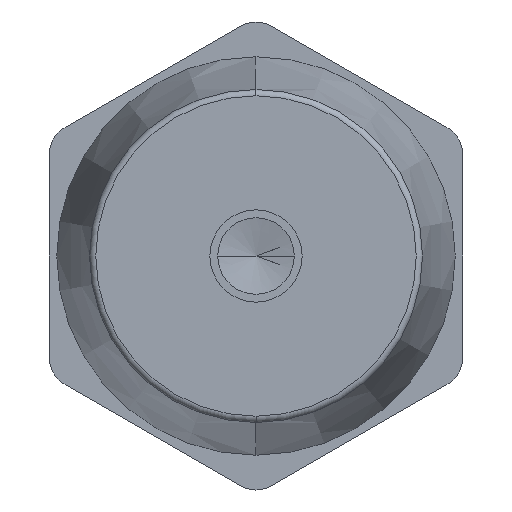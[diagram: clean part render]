
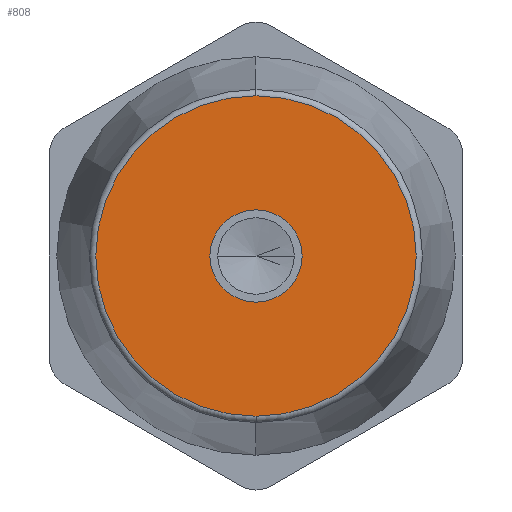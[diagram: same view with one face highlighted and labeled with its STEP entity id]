
A CAD part, front view. The second image highlights one B-rep face of the part: STEP entity #808.
In plain terms, the highlighted planar face has unit normal (0, -1, 0).
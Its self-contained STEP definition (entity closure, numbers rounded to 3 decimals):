
#56 = EDGE_CURVE ( 'NONE', #2029, #2514, #837, .T. ) ;
#58 = DIRECTION ( 'NONE',  ( -1., 0., 0. ) ) ;
#59 = ORIENTED_EDGE ( 'NONE', *, *, #1815, .T. ) ;
#324 = ORIENTED_EDGE ( 'NONE', *, *, #56, .T. ) ;
#439 = FACE_OUTER_BOUND ( 'NONE', #2225, .T. ) ;
#455 = CARTESIAN_POINT ( 'NONE',  ( 32.5, 0., -18.764 ) ) ;
#470 = CIRCLE ( 'NONE', #1387, 7.25 ) ;
#579 = DIRECTION ( 'NONE',  ( 0., -1., 0. ) ) ;
#808 = ADVANCED_FACE ( 'NONE', ( #2064, #439 ), #1881, .F. ) ;
#812 = CARTESIAN_POINT ( 'NONE',  ( 0., 0., 0. ) ) ;
#814 = DIRECTION ( 'NONE',  ( 0., 0., 1. ) ) ;
#837 = CIRCLE ( 'NONE', #1088, 25.161 ) ;
#871 = DIRECTION ( 'NONE',  ( 0., 1., 0. ) ) ;
#954 = DIRECTION ( 'NONE',  ( 0., 0., 1. ) ) ;
#983 = VERTEX_POINT ( 'NONE', #1860 ) ;
#1019 = CIRCLE ( 'NONE', #2252, 7.25 ) ;
#1033 = EDGE_CURVE ( 'NONE', #1543, #983, #470, .T. ) ;
#1088 = AXIS2_PLACEMENT_3D ( 'NONE', #812, #3076, #954 ) ;
#1220 = CARTESIAN_POINT ( 'NONE',  ( 0., 0., -25.161 ) ) ;
#1387 = AXIS2_PLACEMENT_3D ( 'NONE', #2363, #1427, #1642 ) ;
#1427 = DIRECTION ( 'NONE',  ( 0., 1., 0. ) ) ;
#1543 = VERTEX_POINT ( 'NONE', #2082 ) ;
#1607 = AXIS2_PLACEMENT_3D ( 'NONE', #2195, #579, #814 ) ;
#1612 = ORIENTED_EDGE ( 'NONE', *, *, #2564, .T. ) ;
#1642 = DIRECTION ( 'NONE',  ( -1., 0., 0. ) ) ;
#1652 = ORIENTED_EDGE ( 'NONE', *, *, #1033, .T. ) ;
#1815 = EDGE_CURVE ( 'NONE', #983, #1543, #1019, .T. ) ;
#1823 = EDGE_LOOP ( 'NONE', ( #1652, #59 ) ) ;
#1860 = CARTESIAN_POINT ( 'NONE',  ( 7.25, 0., 0. ) ) ;
#1881 = PLANE ( 'NONE',  #2992 ) ;
#1933 = CARTESIAN_POINT ( 'NONE',  ( 0., 0., 0. ) ) ;
#2029 = VERTEX_POINT ( 'NONE', #1220 ) ;
#2064 = FACE_BOUND ( 'NONE', #1823, .T. ) ;
#2082 = CARTESIAN_POINT ( 'NONE',  ( -7.25, 0., 0. ) ) ;
#2195 = CARTESIAN_POINT ( 'NONE',  ( 0., 0., 0. ) ) ;
#2214 = CIRCLE ( 'NONE', #1607, 25.161 ) ;
#2225 = EDGE_LOOP ( 'NONE', ( #1612, #324 ) ) ;
#2252 = AXIS2_PLACEMENT_3D ( 'NONE', #1933, #2676, #58 ) ;
#2363 = CARTESIAN_POINT ( 'NONE',  ( 0., 0., 0. ) ) ;
#2514 = VERTEX_POINT ( 'NONE', #2683 ) ;
#2564 = EDGE_CURVE ( 'NONE', #2514, #2029, #2214, .T. ) ;
#2676 = DIRECTION ( 'NONE',  ( 0., 1., 0. ) ) ;
#2683 = CARTESIAN_POINT ( 'NONE',  ( 0., 0., 25.161 ) ) ;
#2992 = AXIS2_PLACEMENT_3D ( 'NONE', #455, #871, #3057 ) ;
#3057 = DIRECTION ( 'NONE',  ( 0., 0., 1. ) ) ;
#3076 = DIRECTION ( 'NONE',  ( 0., -1., 0. ) ) ;
